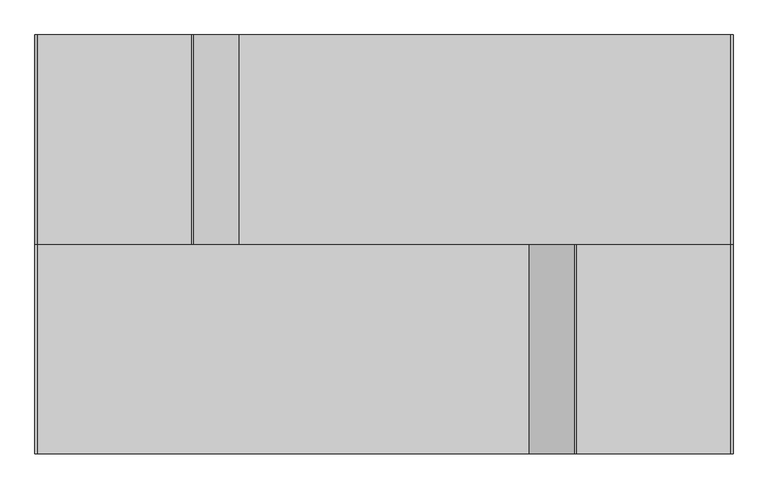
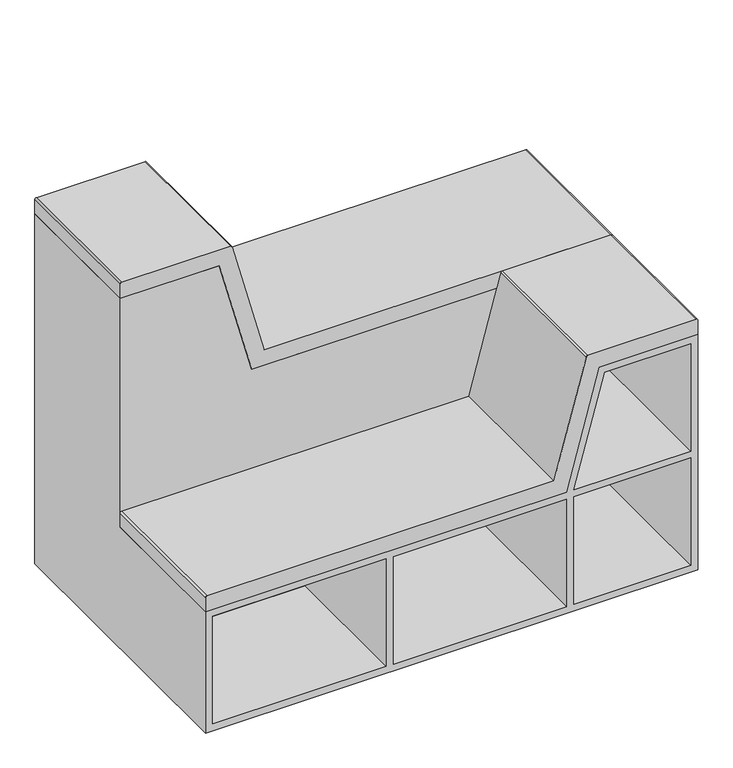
"""IFC4 building model written with IfcOpenShell, lengths in millimetres: furniture geometry, BK Library - HopOn - Right : BK Library - HopOn - Right."""

from ifc_helpers import new_model, si_unit, point, frame, frame_2d, origin, place, context, project, spatial, polyline, circle_curve, trimmed, segment, composite_curve, outline, extrude, faceted_brep, source, transform, mapped, element, save


def furniture_9fe1ca94(model_context):
    return source(origin(), model_context, "Body", "SolidModel", [
        extrude(outline(composite_curve([segment(polyline([(808.0, 745.0000034), (808.0, -311.6646542), (1172.2978396, -409.5807749)]), True, "CONTINUOUS"), segment(trimmed(circle_curve(frame_2d((1171.0, -414.4093992)), 5.0), [point((1172.2978396, -409.5807749))], [point((1176.0, -414.4093992))], False, "CARTESIAN"), True, "CONTINUOUS"), segment(polyline([(1176.0, -414.4093992), (1176.0, -745.0000034)]), True, "CONTINUOUS"), segment(trimmed(circle_curve(frame_2d((1171.0, -745.0000034)), 5.0), [point((1176.0, -745.0000034))], [point((1171.0, -750.0000034))], False, "CARTESIAN"), True, "CONTINUOUS"), segment(polyline([(1171.0, -750.0000034), (1126.0, -750.0000034), (1126.0, -448.9132982), (758.0, -350.0000034), (758.0, 750.0000034), (803.0, 750.0000034)]), True, "CONTINUOUS"), segment(trimmed(circle_curve(frame_2d((803.0, 745.0000034)), 5.0), [point((803.0, 750.0000034))], [point((808.0, 745.0000034))], False, "CARTESIAN"), True, "CONTINUOUS")], self_intersect=False)), frame((0.0, 0.0, 0.0), z_axis=(0.0, 1.0, 0.0), x_axis=(0.0, 0.0, 1.0)), (0.0, 0.0, 1.0), 449.9999997),
        extrude(outline(composite_curve([segment(trimmed(circle_curve(frame_2d((435.0, -745.0000034)), 5.0), [point((440.0, -745.0000034))], [point((435.0, -750.0000034))], False, "CARTESIAN"), True, "CONTINUOUS"), segment(polyline([(435.0, -750.0000034), (390.0, -750.0000034), (390.0, 350.0000034), (758.0, 448.9132982), (758.0, 750.0000034), (803.0, 750.0000034)]), True, "CONTINUOUS"), segment(trimmed(circle_curve(frame_2d((803.0, 745.0000034)), 5.0), [point((803.0, 750.0000034))], [point((808.0, 745.0000034))], False, "CARTESIAN"), True, "CONTINUOUS"), segment(polyline([(808.0, 745.0000034), (808.0, 414.4093992)]), True, "CONTINUOUS"), segment(trimmed(circle_curve(frame_2d((803.0, 414.4093992)), 5.0), [point((808.0, 414.4093992))], [point((804.2978396, 409.5807749))], False, "CARTESIAN"), True, "CONTINUOUS"), segment(polyline([(804.2978396, 409.5807749), (440.0, 311.6646542), (440.0, -745.0000034)]), True, "CONTINUOUS")], self_intersect=False)), frame((0.0, -449.9999997, 0.0), z_axis=(0.0, 1.0, 0.0), x_axis=(0.0, 0.0, 1.0)), (0.0, 0.0, 1.0), 449.9999997),
        faceted_brep([(-349.9999832, 0.0, 758.0), (-448.913278, 0.0, 1126.0), (-750.0000034, 0.0, 1126.0), (-750.0000034, 0.0, 390.0), (350.0000034, 0.0, 390.0), (448.9132982, 0.0, 758.0), (-199.9999966, -21.9999997, 22.0), (-199.9999966, -21.9999997, 368.0), (-727.9999966, -21.9999997, 368.0), (-727.9999966, -21.9999997, 22.0), (350.0000034, -21.9999997, 22.0), (350.0000034, -21.9999997, 368.0), (-177.9999966, -21.9999997, 368.0), (-177.9999966, -21.9999997, 22.0), (728.0000034, -21.9999997, 22.0), (728.0000034, -21.9999997, 368.0), (372.0000034, -21.9999997, 368.0), (372.0000034, -21.9999997, 22.0), (465.7808518, -21.9999997, 736.0), (372.7808518, -21.9999997, 390.0), (728.0000034, -21.9999997, 390.0), (728.0000034, -21.9999997, 736.0), (200.0000034, 22.0000003, 736.0), (728.0000034, 22.0000003, 736.0), (728.0000034, 22.0000003, 390.0), (200.0000034, 22.0000003, 390.0), (-349.9999966, 22.0000003, 736.0), (178.0000034, 22.0000003, 736.0), (178.0000034, 22.0000003, 390.0), (-349.9999966, 22.0000003, 390.0), (-727.9999966, 22.0000003, 736.0), (-371.9999966, 22.0000003, 736.0), (-371.9999966, 22.0000003, 390.0), (-727.9999966, 22.0000003, 390.0), (200.0000034, 22.0000003, 368.0), (728.0000034, 22.0000003, 368.0), (728.0000034, 22.0000003, 22.0), (200.0000034, 22.0000003, 22.0), (-349.9999966, 22.0000003, 368.0), (178.0000034, 22.0000003, 368.0), (178.0000034, 22.0000003, 22.0), (-349.9999966, 22.0000003, 22.0), (-727.9999966, 22.0000003, 368.0), (-371.9999966, 22.0000003, 368.0), (-371.9999966, 22.0000003, 22.0), (-727.9999966, 22.0000003, 22.0), (-465.7808317, 22.0000003, 1104.0), (-372.7808317, 22.0000003, 758.0), (-727.9999966, 22.0000003, 758.0), (-727.9999966, 22.0000003, 1104.0), (750.0000034, 450.0000003, 758.0), (750.0000034, 450.0000003, 0.0), (-750.0000034, 450.0000003, 0.0), (-750.0000034, 450.0000003, 1126.0), (-448.913278, 450.0000003, 1126.0), (-349.9999832, 450.0000003, 758.0), (200.0000034, 450.0000003, 736.0), (200.0000034, 450.0000003, 390.0), (728.0000034, 450.0000003, 390.0), (728.0000034, 450.0000003, 736.0), (-349.9999966, 450.0000003, 736.0), (-349.9999966, 450.0000003, 390.0), (178.0000034, 450.0000003, 390.0), (178.0000034, 450.0000003, 736.0), (-727.9999966, 450.0000003, 736.0), (-727.9999966, 450.0000003, 390.0), (-371.9999966, 450.0000003, 390.0), (-371.9999966, 450.0000003, 736.0), (200.0000034, 450.0000003, 368.0), (200.0000034, 450.0000003, 22.0), (728.0000034, 450.0000003, 22.0), (728.0000034, 450.0000003, 368.0), (-349.9999966, 450.0000003, 368.0), (-349.9999966, 450.0000003, 22.0), (178.0000034, 450.0000003, 22.0), (178.0000034, 450.0000003, 368.0), (-727.9999966, 450.0000003, 368.0), (-727.9999966, 450.0000003, 22.0), (-371.9999966, 450.0000003, 22.0), (-371.9999966, 450.0000003, 368.0), (-465.7808317, 450.0000003, 1104.0), (-727.9999966, 450.0000003, 1104.0), (-727.9999966, 450.0000003, 758.0), (-372.7808317, 450.0000003, 758.0), (448.9132982, -449.9999997, 758.0), (750.0000034, -449.9999997, 758.0), (-750.0000034, -449.9999997, 0.0), (-750.0000034, -449.9999997, 390.0), (750.0000034, -449.9999997, 0.0), (350.0000034, -449.9999997, 390.0), (-199.9999966, -449.9999997, 368.0), (-199.9999966, -449.9999997, 22.0), (-727.9999966, -449.9999997, 22.0), (-727.9999966, -449.9999997, 368.0), (350.0000034, -449.9999997, 368.0), (350.0000034, -449.9999997, 22.0), (-177.9999966, -449.9999997, 22.0), (-177.9999966, -449.9999997, 368.0), (728.0000034, -449.9999997, 368.0), (728.0000034, -449.9999997, 22.0), (372.0000034, -449.9999997, 22.0), (372.0000034, -449.9999997, 368.0), (372.7808518, -449.9999997, 390.0), (465.7808518, -449.9999997, 736.0), (728.0000034, -449.9999997, 736.0), (728.0000034, -449.9999997, 390.0)], [[[0, 1, 2, 3, 4, 5]], [[6, 7, 8, 9]], [[10, 11, 12, 13]], [[14, 15, 16, 17]], [[18, 19, 20, 21]], [[22, 23, 24, 25]], [[26, 27, 28, 29]], [[30, 31, 32, 33]], [[34, 35, 36, 37]], [[38, 39, 40, 41]], [[42, 43, 44, 45]], [[46, 47, 48, 49]], [[50, 51, 52, 53, 54, 55], [56, 57, 58, 59], [60, 61, 62, 63], [64, 65, 66, 67], [68, 69, 70, 71], [72, 73, 74, 75], [76, 77, 78, 79], [80, 81, 82, 83]], [[50, 55, 0, 5, 84, 85]], [[1, 0, 55, 54]], [[2, 1, 54, 53]], [[53, 52, 86, 87, 3, 2]], [[86, 52, 51, 88]], [[88, 51, 50, 85]], [[56, 59, 23, 22]], [[59, 58, 24, 23]], [[58, 57, 25, 24]], [[57, 56, 22, 25]], [[60, 63, 27, 26]], [[63, 62, 28, 27]], [[62, 61, 29, 28]], [[61, 60, 26, 29]], [[64, 67, 31, 30]], [[67, 66, 32, 31]], [[66, 65, 33, 32]], [[65, 64, 30, 33]], [[68, 71, 35, 34]], [[71, 70, 36, 35]], [[70, 69, 37, 36]], [[69, 68, 34, 37]], [[72, 75, 39, 38]], [[75, 74, 40, 39]], [[74, 73, 41, 40]], [[73, 72, 38, 41]], [[76, 79, 43, 42]], [[79, 78, 44, 43]], [[78, 77, 45, 44]], [[77, 76, 42, 45]], [[80, 83, 47, 46]], [[83, 82, 48, 47]], [[82, 81, 49, 48]], [[81, 80, 46, 49]], [[87, 86, 88, 85, 84, 89], [90, 91, 92, 93], [94, 95, 96, 97], [98, 99, 100, 101], [102, 103, 104, 105]], [[89, 84, 5, 4]], [[87, 89, 4, 3]], [[91, 90, 7, 6]], [[92, 91, 6, 9]], [[93, 92, 9, 8]], [[90, 93, 8, 7]], [[95, 94, 11, 10]], [[96, 95, 10, 13]], [[97, 96, 13, 12]], [[94, 97, 12, 11]], [[99, 98, 15, 14]], [[100, 99, 14, 17]], [[101, 100, 17, 16]], [[98, 101, 16, 15]], [[103, 102, 19, 18]], [[104, 103, 18, 21]], [[105, 104, 21, 20]], [[102, 105, 20, 19]]]),
    ])


if __name__ == "__main__":
    model = new_model("IFC4")
    model_context = context("Model", 3, world=origin())
    ifc_project = project(units=[si_unit("LENGTHUNIT", "METRE", prefix="MILLI")], contexts=[model_context])
    site = spatial("IfcSite", under=ifc_project)
    building = spatial("IfcBuilding", under=site)
    placement = place(None, origin())
    furniture_shape = furniture_9fe1ca94(model_context)
    element("IfcFurniture", 1, ObjectType="BK Library - HopOn - Right : BK Library - HopOn - Right", at=placement, inside=building, context=model_context, shape_type="MappedRepresentation", body=[
        mapped(furniture_shape, transform((0.0, 0.0, 0.0), x_axis=(1.0, 0.0, 0.0), y_axis=(0.0, 1.0, 0.0), z_axis=(0.0, 0.0, 1.0))),
    ])
    save(model, "model.ifc")
